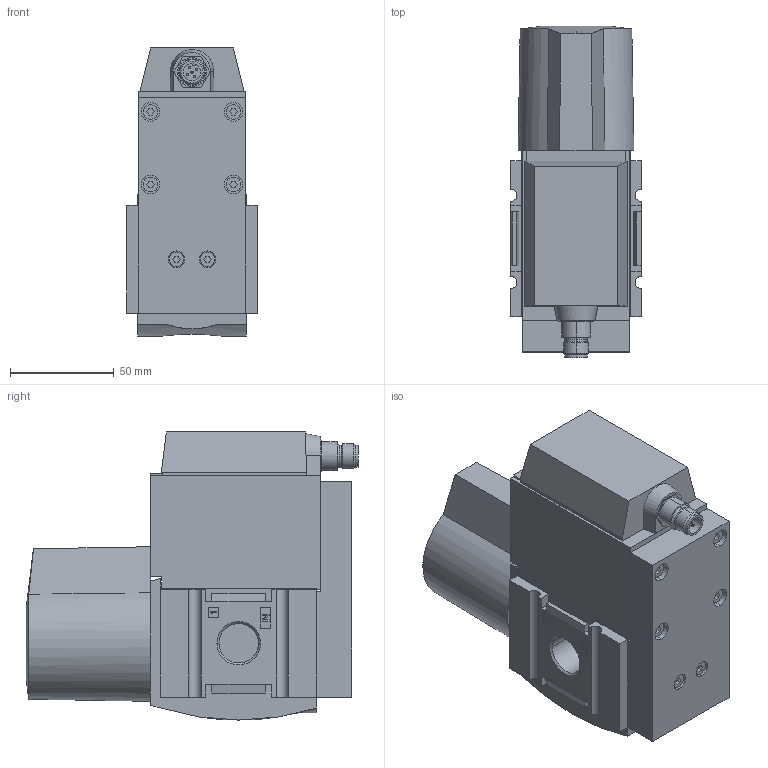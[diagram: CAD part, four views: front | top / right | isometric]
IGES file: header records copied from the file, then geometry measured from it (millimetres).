
Start section:  PTC IGES file: R414011390\r414011390.iges
Global section: file name: R414011390\r414011390.iges; native system: Creo Parametric by PTC Inc.; preprocessor: 2020044; author: THD3HC; organization: Unknown; date: 20231123.163839; units: millimetre
Bounding box: 63 x 160 x 138.8 mm (x, y, z)
Surface area: 76901.4 mm2 (no closed solid volume)
Topology: 0 solids, 0 shells, 400 faces, 2070 edges, 2070 vertices
Faces by surface type: bspline 327, revolution 73
